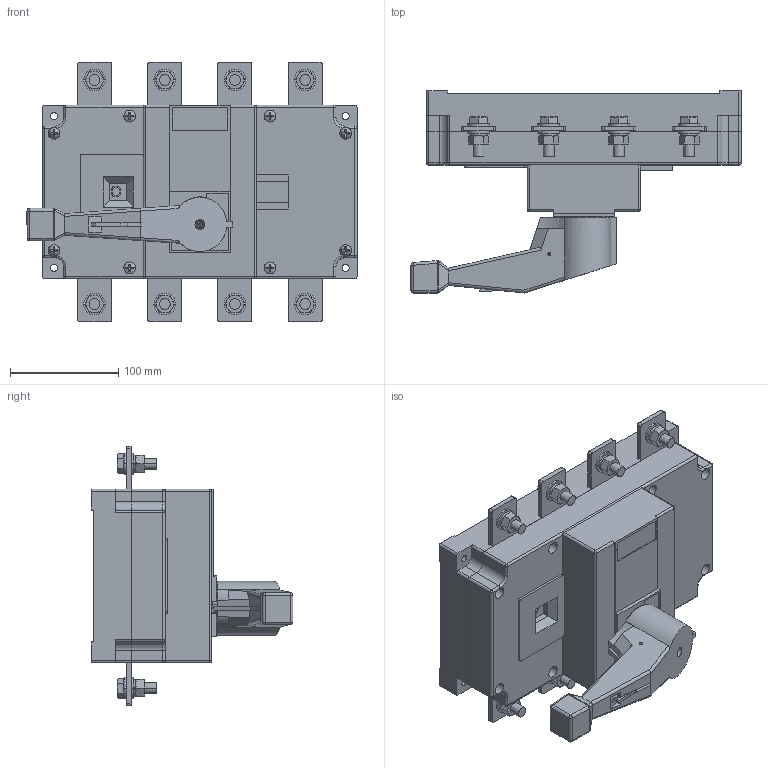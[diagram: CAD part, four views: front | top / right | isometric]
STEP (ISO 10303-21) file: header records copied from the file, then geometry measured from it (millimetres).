
FILE_DESCRIPTION((''),'2;1');
FILE_NAME('2TZD_506_1005_SW0001','2022-08-12T',('panxiangxiang'),(''),'PRO/ENGINEER BY PARAMETRIC TECHNOLOGY CORPORATION, 2017170','PRO/ENGINEER BY PARAMETRIC TECHNOLOGY CORPORATION, 2017170','');
FILE_SCHEMA(('CONFIG_CONTROL_DESIGN'));
Products named in the file (1): 2TZD_506_1005_SW0001
Bounding box: 305.51 x 186.8 x 240.5 mm (x, y, z)
Surface area: 697376.3 mm2 (no closed solid volume)
Topology: 0 solids, 211 shells, 2942 faces, 8982 edges, 6160 vertices
Faces by surface type: plane 1933, cylinder 515, cone 342, torus 97, sphere 50, bspline 5
Entity records: 106736 total; most frequent: CARTESIAN_POINT 27170, DIRECTION 16335, ORIENTED_EDGE 15641, EDGE_CURVE 8966, VERTEX_POINT 6160, VECTOR 5575, LINE 5575, AXIS2_PLACEMENT_3D 5380
